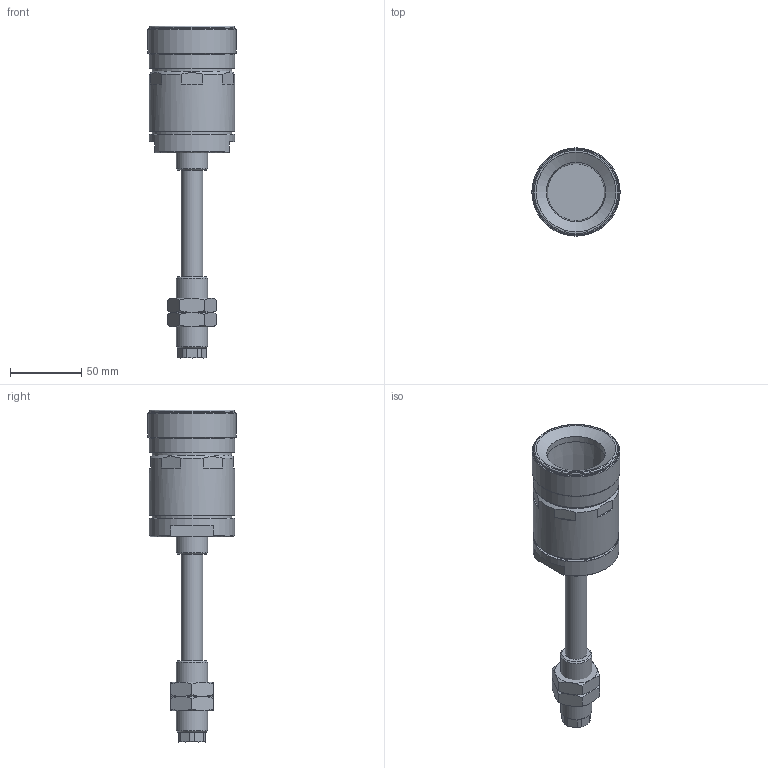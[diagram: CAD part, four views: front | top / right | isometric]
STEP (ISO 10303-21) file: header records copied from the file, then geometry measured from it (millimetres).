
FILE_DESCRIPTION(('STEP AP203'),'1');
FILE_NAME('SGC-40L-50-T.stp','2021-06-21T08:00:11',(' '),(' '),'Spatial InterOp 3D',' ',' ');
FILE_SCHEMA(('CONFIG_CONTROL_DESIGN'));
Length unit declared in the file: millimetre
Products named in the file (5): SGC-40L-50-T; SGC-40L-ZZ-T; 取付具; ナット
Assembly tree (4 placements, depth 2):
  SGC-40L-50-T
    SGC-40L-ZZ-T
    取付具
    ナット
    ナット
Bounding box: 62 x 62 x 233.2 mm (x, y, z)
Volume: 181458.3 mm3; surface area: 56761 mm2
Topology: 4 solids, 4 shells, 135 faces, 287 edges, 175 vertices
Faces by surface type: plane 57, cone 45, cylinder 28, torus 5
Full cylindrical faces by diameter (mm): 8 x1, 8.2 x1, 11.7 x1, 13.4 x1, 13.7 x1, 15 x3, 16 x1, 20.376 x2, 22 x2, 40 x1, 41.5 x1, 56 x2, 60 x4, 62 x1
Entity records: 3894 total; most frequent: CARTESIAN_POINT 956, DIRECTION 570, ORIENTED_EDGE 486, AXIS2_PLACEMENT_3D 257, EDGE_CURVE 243, EDGE_LOOP 196, VERTEX_POINT 171, FACE_OUTER_BOUND 162
